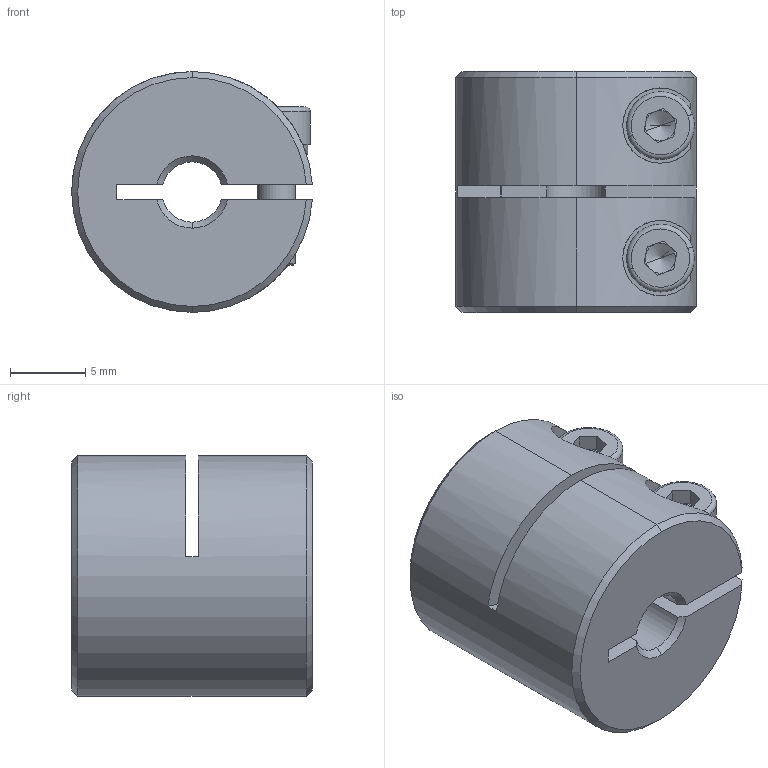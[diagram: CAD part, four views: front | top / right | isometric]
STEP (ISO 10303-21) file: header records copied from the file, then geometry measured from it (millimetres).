
FILE_DESCRIPTION (( 'STEP AP203' ), '1' );
FILE_NAME ('LL-B-D16L16-4-4.STEP', '2021-11-03T02:37:00', ( '' ), ( '' ), 'SwSTEP 2.0', 'SolidWorks 2018', '' );
FILE_SCHEMA (( 'CONFIG_CONTROL_DESIGN' ));
Length unit declared in the file: millimetre
Products named in the file (1): LL-B-D16L16-4-4
Bounding box: 15.98 x 16 x 16 mm (x, y, z)
Volume: 2758.7 mm3; surface area: 2014.2 mm2
Topology: 1 solids, 1 shells, 116 faces, 299 edges, 187 vertices
Faces by surface type: plane 50, cylinder 42, cone 20, torus 4
Entity records: 3787 total; most frequent: CARTESIAN_POINT 851, DIRECTION 624, ORIENTED_EDGE 590, EDGE_CURVE 295, AXIS2_PLACEMENT_3D 244, VERTEX_POINT 187, LINE 136, VECTOR 136
